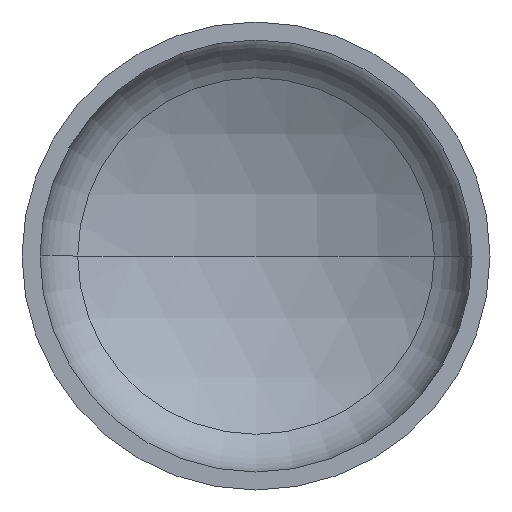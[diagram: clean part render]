
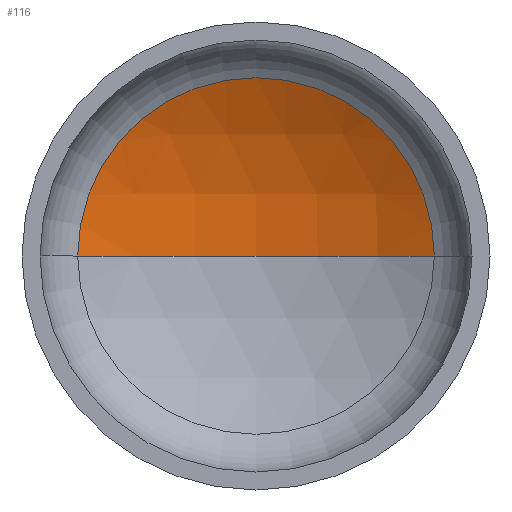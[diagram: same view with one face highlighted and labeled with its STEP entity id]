
A CAD part, front view. The second image highlights one B-rep face of the part: STEP entity #116.
In plain terms, the highlighted spherical face has radius 2080 mm.
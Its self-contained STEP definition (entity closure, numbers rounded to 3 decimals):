
#19 = AXIS2_PLACEMENT_3D ( 'NONE', #33, #193, #321 ) ;
#22 = ORIENTED_EDGE ( 'NONE', *, *, #283, .T. ) ;
#28 = AXIS2_PLACEMENT_3D ( 'NONE', #222, #163, #348 ) ;
#30 = AXIS2_PLACEMENT_3D ( 'NONE', #111, #133, #128 ) ;
#33 = CARTESIAN_POINT ( 'NONE',  ( 0., -1377.295, 0. ) ) ;
#34 = ORIENTED_EDGE ( 'NONE', *, *, #299, .T. ) ;
#45 = VERTEX_POINT ( 'NONE', #261 ) ;
#51 = AXIS2_PLACEMENT_3D ( 'NONE', #181, #190, #374 ) ;
#72 = ORIENTED_EDGE ( 'NONE', *, *, #317, .F. ) ;
#102 = CIRCLE ( 'NONE', #19, 2080. ) ;
#104 = VERTEX_POINT ( 'NONE', #332 ) ;
#111 = CARTESIAN_POINT ( 'NONE',  ( 0., 451.737, 0. ) ) ;
#116 = ADVANCED_FACE ( 'NONE', ( #281 ), #356, .F. ) ;
#128 = DIRECTION ( 'NONE',  ( 1., 0., 0. ) ) ;
#133 = DIRECTION ( 'NONE',  ( 0., -1., 0. ) ) ;
#163 = DIRECTION ( 'NONE',  ( 0., 0., -1. ) ) ;
#181 = CARTESIAN_POINT ( 'NONE',  ( 0., -1377.295, 0. ) ) ;
#190 = DIRECTION ( 'NONE',  ( 0., 0., -1. ) ) ;
#193 = DIRECTION ( 'NONE',  ( 0., 0., 1. ) ) ;
#200 = CARTESIAN_POINT ( 'NONE',  ( 0., 702.705, 0. ) ) ;
#203 = EDGE_LOOP ( 'NONE', ( #72, #34, #22 ) ) ;
#222 = CARTESIAN_POINT ( 'NONE',  ( 0., -1377.295, 0. ) ) ;
#261 = CARTESIAN_POINT ( 'NONE',  ( -990.476, 451.737, 0. ) ) ;
#281 = FACE_OUTER_BOUND ( 'NONE', #203, .T. ) ;
#283 = EDGE_CURVE ( 'NONE', #104, #45, #396, .T. ) ;
#299 = EDGE_CURVE ( 'NONE', #307, #104, #310, .T. ) ;
#307 = VERTEX_POINT ( 'NONE', #200 ) ;
#310 = CIRCLE ( 'NONE', #28, 2080. ) ;
#317 = EDGE_CURVE ( 'NONE', #307, #45, #102, .T. ) ;
#321 = DIRECTION ( 'NONE',  ( 1., 0., 0. ) ) ;
#332 = CARTESIAN_POINT ( 'NONE',  ( 990.476, 451.737, 0. ) ) ;
#348 = DIRECTION ( 'NONE',  ( -1., 0., 0. ) ) ;
#356 = SPHERICAL_SURFACE ( 'NONE', #51, 2080. ) ;
#374 = DIRECTION ( 'NONE',  ( -1., 0., 0. ) ) ;
#396 = CIRCLE ( 'NONE', #30, 990.476 ) ;
